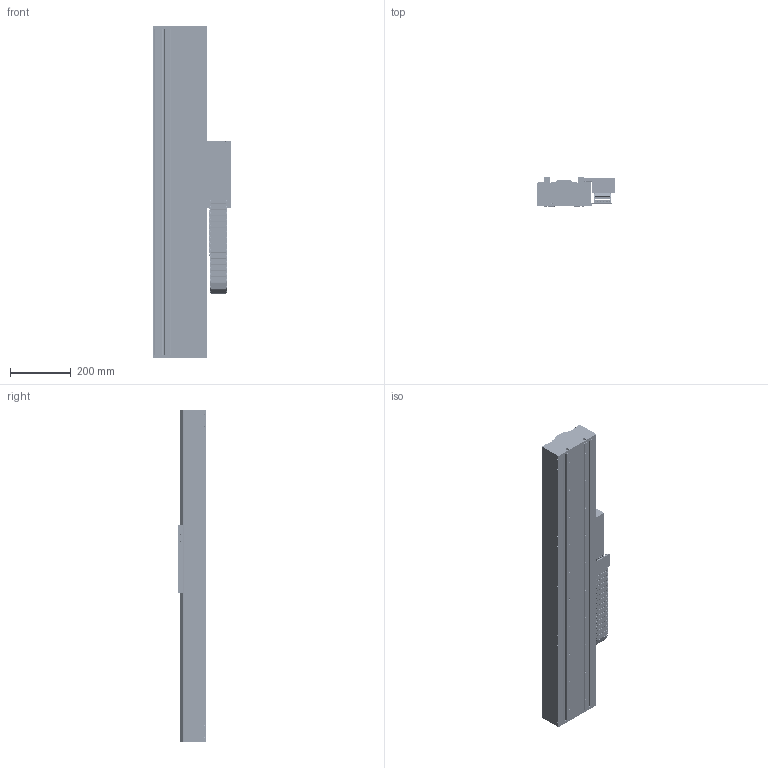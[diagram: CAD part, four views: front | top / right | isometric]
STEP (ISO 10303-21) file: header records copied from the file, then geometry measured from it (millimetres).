
FILE_DESCRIPTION (( 'STEP AP203' ), '1' );
FILE_NAME ('STF20120F-xC1B-Bxx Series.STEP', '2007-06-22T21:24:38', ( 'Yaskawa' ), ( 'Yaskawa' ), 'SwSTEP 2.0', 'SolidWorks 2007', '' );
FILE_SCHEMA (( 'CONFIG_CONTROL_DESIGN' ));
Length unit declared in the file: millimetre
Products named in the file (59): STF20BM Base_STF20BM-006; Mult-SR15+580LY_006; Complete Carriage; STCM-001-R2 Cable Bracket; SGLFW-20A120AP; STCM-003 Cable Assembly Bottom; STCM-004 Cable Assembly Side; STCM-005-R1 Cable Assembly Cover; Serial Converter; STCM-006-R1 Upper E-chain Bracket; STF2035-006 Endplate; STF2035-009-02 Top Cover 2_F; STF2035-010-02 Side Cover 2_F; STCM-007 Lower E-Chain Bracket; STF20120F; 07.50.028.0_96; 07.50.028.0_97; 07.50.028.0_98; 07.50.028.0_99; 07.50.028.0_100; 07.50.028.0_104; 07.50.028.0_101; 07.50.028.0_102; 07.50.028.0_103; 07.50.028.0_106; 07.50.028.0_107; 07.50.028.0_108; 07.50.028.0_109; 07.50.028.0_110; 07.50.028.0_112; 07.50.028.0_113; 07.50.028.0_114; 07.50.028.0_115; 07.50.028.0_116; 07.50.028.0_120; 07.50.028.0_117; 07.50.028.0_118; 07.50.028.0_119; 07.50.028.0_121; 07.50.028.0_122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
Assembly tree (74 placements, depth 4):
  STF20120F-xC1B-Bxx Series
    STF2035-010-02 Side Cover 2_F  x2
    STF20BM Base_STF20BM-006
      End Stop with Bumper  x4
        STF2035-007 End Stop
        Bumper-Medium
      SGLFM-20324AC  x3
      Mult-SR15+580LY_006  x2
      STF20BM Base_STF20BM-006
    Complete Carriage
      STCM-R1
        STCM-004 Cable Assembly Side
        STCM-002-R2 Cable Assembly Front
        STCM-006-R1 Upper E-chain Bracket
        STCM-003 Cable Assembly Bottom
        STCM-005-R1 Cable Assembly Cover
        STCM-001-R2 Cable Bracket
        Serial Converter
      STF20-120 SSR15W Carriage-R2
        RGH22B
        SSR15W Block  x4
        STF2035-003 Renishaw Encoder Mount
        STF2035-001B F20-120 Carriage
        STF2035-002A-R2 F2035 Carriage Horn  x2
        STF2035-004 Flag
        SGLFW-20A120AP
        STF2035-005-R2 Cable Router
    STF2035-006 Endplate  x2
    STF2035-009-02 Top Cover 2_F
    STCM-007 Lower E-Chain Bracket
    STF20120F
      07.50.028.0_106
      07.50.028.0_118
      07.50.028.0_110
      07.50.028.0_122
      07.50.028.0_120
      07.50.028.0_123
      07.50.028.0_100
      07.50.028.0_101
      07.50.028.0_103
      07.50.028.0_111  x3
      07.50.028.0_98
      07.50.028.0_97
      07.50.028.0_109
      07.50.028.0_115
      07.50.028.0_116
      07.50.028.0_105  x3
      07.50.028.0_99
      07.50.028.0_107
      07.50.028.0_114
      07.50.028.0_96
      07.50.028.0_117
      07.50.028.0_121
      07.50.028.0_113
      07.50.028.0_108
      07.50.028.0_112
      07.50.028.0_102
      07.50.028.0_104
      07.50.028.0_119
Bounding box: 254.2 x 94.7 x 1089.05 mm (x, y, z)
Volume: 6558801.3 mm3; surface area: 2202749.5 mm2
Topology: 101 solids, 101 shells, 5417 faces, 14130 edges, 9045 vertices
Faces by surface type: plane 2742, cylinder 2241, cone 386, bspline 44, torus 4
Entity records: 125735 total; most frequent: DIRECTION 21182, CARTESIAN_POINT 20854, ORIENTED_EDGE 19732, EDGE_CURVE 9866, AXIS2_PLACEMENT_3D 7409, VERTEX_POINT 6468, VECTOR 6364, LINE 6364
